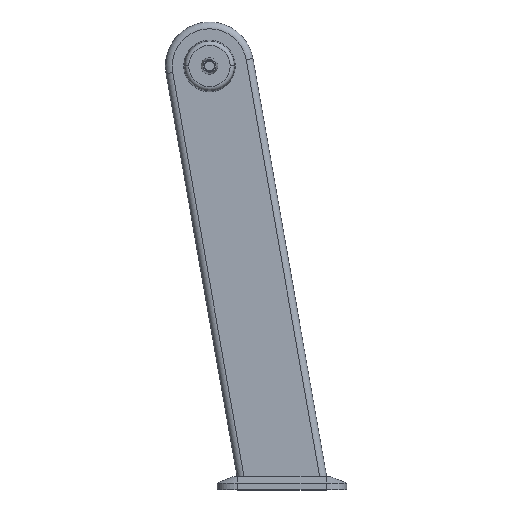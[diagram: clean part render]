
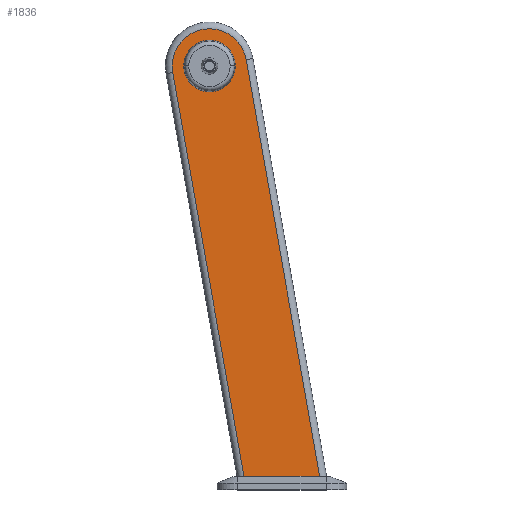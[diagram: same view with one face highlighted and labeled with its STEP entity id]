
A CAD part, top view. The second image highlights one B-rep face of the part: STEP entity #1836.
In plain terms, the highlighted planar face has unit normal (0, 0, 1).
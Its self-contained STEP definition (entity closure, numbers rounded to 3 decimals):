
#30 = AXIS2_PLACEMENT_3D ( 'NONE', #1114, #2856, #1352 ) ;
#49 = PLANE ( 'NONE',  #351 ) ;
#113 = CARTESIAN_POINT ( 'NONE',  ( 54.164, 9.551, 31.25 ) ) ;
#170 = FACE_OUTER_BOUND ( 'NONE', #2900, .T. ) ;
#207 = VERTEX_POINT ( 'NONE', #2729 ) ;
#209 = ORIENTED_EDGE ( 'NONE', *, *, #2228, .T. ) ;
#258 = DIRECTION ( 'NONE',  ( 1., 0., 0. ) ) ;
#351 = AXIS2_PLACEMENT_3D ( 'NONE', #811, #2550, #1052 ) ;
#401 = VERTEX_POINT ( 'NONE', #2319 ) ;
#484 = ORIENTED_EDGE ( 'NONE', *, *, #1122, .F. ) ;
#595 = VERTEX_POINT ( 'NONE', #113 ) ;
#603 = VERTEX_POINT ( 'NONE', #870 ) ;
#735 = CARTESIAN_POINT ( 'NONE',  ( -38., 0., 31.25 ) ) ;
#756 = ORIENTED_EDGE ( 'NONE', *, *, #3137, .T. ) ;
#765 = CIRCLE ( 'NONE', #1423, 55. ) ;
#811 = CARTESIAN_POINT ( 'NONE',  ( 0., 0., 31.25 ) ) ;
#870 = CARTESIAN_POINT ( 'NONE',  ( -54.164, -9.551, 31.25 ) ) ;
#918 = VECTOR ( 'NONE', #2893, 1000. ) ;
#977 = EDGE_CURVE ( 'NONE', #595, #603, #765, .T. ) ;
#1052 = DIRECTION ( 'NONE',  ( 1., 0., 0. ) ) ;
#1113 = CARTESIAN_POINT ( 'NONE',  ( 54.05, -623.264, 31.25 ) ) ;
#1114 = CARTESIAN_POINT ( 'NONE',  ( 0., 0., 31.25 ) ) ;
#1122 = EDGE_CURVE ( 'NONE', #3020, #1665, #2110, .T. ) ;
#1149 = CARTESIAN_POINT ( 'NONE',  ( 0., -605., 31.25 ) ) ;
#1327 = EDGE_CURVE ( 'NONE', #1665, #3020, #2984, .T. ) ;
#1352 = DIRECTION ( 'NONE',  ( 1., 0., 0. ) ) ;
#1423 = AXIS2_PLACEMENT_3D ( 'NONE', #3237, #1727, #258 ) ;
#1461 = CARTESIAN_POINT ( 'NONE',  ( 0., 0., 31.25 ) ) ;
#1480 = FACE_BOUND ( 'NONE', #2695, .T. ) ;
#1553 = LINE ( 'NONE', #1149, #918 ) ;
#1556 = VECTOR ( 'NONE', #2283, 1000. ) ;
#1665 = VERTEX_POINT ( 'NONE', #735 ) ;
#1678 = ORIENTED_EDGE ( 'NONE', *, *, #1842, .T. ) ;
#1703 = DIRECTION ( 'NONE',  ( 1., 0., 0. ) ) ;
#1727 = DIRECTION ( 'NONE',  ( 0., 0., 1. ) ) ;
#1836 = ADVANCED_FACE ( 'NONE', ( #170, #1480 ), #49, .T. ) ;
#1842 = EDGE_CURVE ( 'NONE', #401, #595, #2066, .T. ) ;
#1874 = LINE ( 'NONE', #1113, #3144 ) ;
#2028 = CARTESIAN_POINT ( 'NONE',  ( 38., 0., 31.25 ) ) ;
#2066 = LINE ( 'NONE', #2793, #1556 ) ;
#2110 = CIRCLE ( 'NONE', #30, 38. ) ;
#2228 = EDGE_CURVE ( 'NONE', #207, #401, #1553, .T. ) ;
#2283 = DIRECTION ( 'NONE',  ( -0.174, 0.985, 0. ) ) ;
#2319 = CARTESIAN_POINT ( 'NONE',  ( 162.526, -605., 31.25 ) ) ;
#2372 = AXIS2_PLACEMENT_3D ( 'NONE', #1461, #3216, #1703 ) ;
#2438 = ORIENTED_EDGE ( 'NONE', *, *, #1327, .F. ) ;
#2550 = DIRECTION ( 'NONE',  ( 0., 0., 1. ) ) ;
#2695 = EDGE_LOOP ( 'NONE', ( #484, #2438 ) ) ;
#2729 = CARTESIAN_POINT ( 'NONE',  ( 50.829, -605., 31.25 ) ) ;
#2793 = CARTESIAN_POINT ( 'NONE',  ( 54.164, 9.551, 31.25 ) ) ;
#2856 = DIRECTION ( 'NONE',  ( 0., 0., 1. ) ) ;
#2884 = ORIENTED_EDGE ( 'NONE', *, *, #977, .T. ) ;
#2893 = DIRECTION ( 'NONE',  ( 1., 0., 0. ) ) ;
#2900 = EDGE_LOOP ( 'NONE', ( #1678, #2884, #756, #209 ) ) ;
#2984 = CIRCLE ( 'NONE', #2372, 38. ) ;
#3020 = VERTEX_POINT ( 'NONE', #2028 ) ;
#3112 = DIRECTION ( 'NONE',  ( 0.174, -0.985, 0. ) ) ;
#3137 = EDGE_CURVE ( 'NONE', #603, #207, #1874, .T. ) ;
#3144 = VECTOR ( 'NONE', #3112, 1000. ) ;
#3216 = DIRECTION ( 'NONE',  ( 0., 0., 1. ) ) ;
#3237 = CARTESIAN_POINT ( 'NONE',  ( 0., 0., 31.25 ) ) ;
